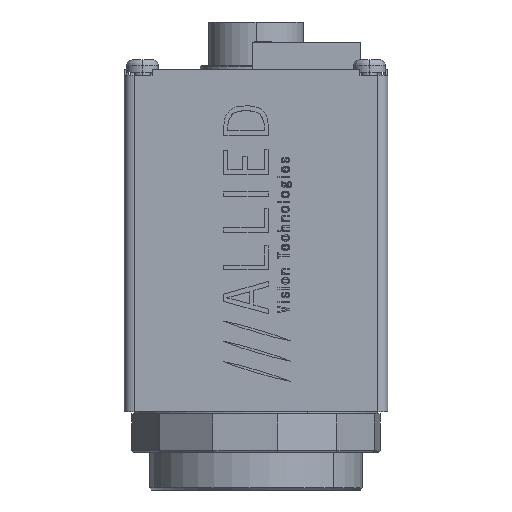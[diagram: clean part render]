
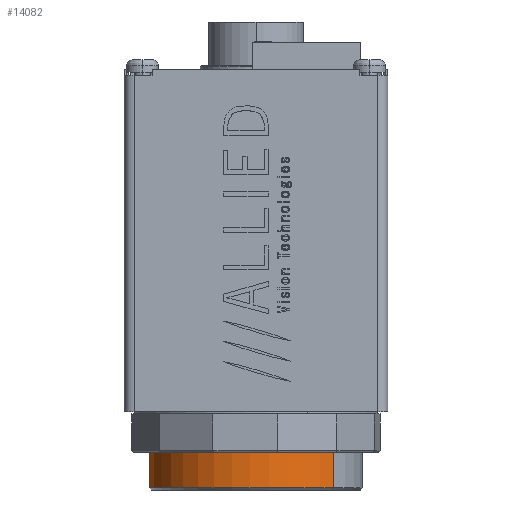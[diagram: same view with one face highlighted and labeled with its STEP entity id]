
A CAD part, left-side view. The second image highlights one B-rep face of the part: STEP entity #14082.
In plain terms, the highlighted cylindrical face has radius 13.335 mm (diameter 26.67 mm), a partial arc.
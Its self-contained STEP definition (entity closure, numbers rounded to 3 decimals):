
#2780 = ORIENTED_EDGE ( 'NONE', *, *, #92303, .F. ) ;
#14082 = ADVANCED_FACE ( 'NONE', ( #15612 ), #34441, .T. ) ;
#15612 = FACE_OUTER_BOUND ( 'NONE', #78470, .T. ) ;
#16991 = CARTESIAN_POINT ( 'NONE',  ( 0., 0., 13.386 ) ) ;
#19579 = CARTESIAN_POINT ( 'NONE',  ( 0., 0., 7.214 ) ) ;
#30424 = DIRECTION ( 'NONE',  ( 1., 0., 0. ) ) ;
#32280 = EDGE_CURVE ( 'NONE', #144891, #133744, #148888, .T. ) ;
#34441 = CYLINDRICAL_SURFACE ( 'NONE', #151671, 13.335 ) ;
#45432 = DIRECTION ( 'NONE',  ( 0., 0., 1. ) ) ;
#46321 = VECTOR ( 'NONE', #170094, 1000. ) ;
#46428 = DIRECTION ( 'NONE',  ( 0., 0., 1. ) ) ;
#49495 = LINE ( 'NONE', #83684, #152041 ) ;
#51397 = CIRCLE ( 'NONE', #167001, 13.335 ) ;
#55950 = AXIS2_PLACEMENT_3D ( 'NONE', #125602, #45432, #139055 ) ;
#56786 = CARTESIAN_POINT ( 'NONE',  ( 13.335, 0., 7.214 ) ) ;
#76534 = CARTESIAN_POINT ( 'NONE',  ( -13.335, 0., 7.214 ) ) ;
#77728 = VERTEX_POINT ( 'NONE', #124391 ) ;
#78470 = EDGE_LOOP ( 'NONE', ( #124386, #140783, #91178, #2780 ) ) ;
#83684 = CARTESIAN_POINT ( 'NONE',  ( 13.335, 0., 7.214 ) ) ;
#91178 = ORIENTED_EDGE ( 'NONE', *, *, #100019, .T. ) ;
#92303 = EDGE_CURVE ( 'NONE', #100018, #77728, #49495, .T. ) ;
#97166 = DIRECTION ( 'NONE',  ( 0., 0., 1. ) ) ;
#100018 = VERTEX_POINT ( 'NONE', #56786 ) ;
#100019 = EDGE_CURVE ( 'NONE', #133744, #77728, #51397, .T. ) ;
#100304 = DIRECTION ( 'NONE',  ( 1., 0., 0. ) ) ;
#110569 = DIRECTION ( 'NONE',  ( 0., 0., -1. ) ) ;
#110651 = CARTESIAN_POINT ( 'NONE',  ( -13.335, 0., 13.386 ) ) ;
#117074 = EDGE_CURVE ( 'NONE', #100018, #144891, #141030, .T. ) ;
#124386 = ORIENTED_EDGE ( 'NONE', *, *, #117074, .T. ) ;
#124391 = CARTESIAN_POINT ( 'NONE',  ( 13.335, 0., 13.386 ) ) ;
#125602 = CARTESIAN_POINT ( 'NONE',  ( 0., 0., 7.214 ) ) ;
#133744 = VERTEX_POINT ( 'NONE', #110651 ) ;
#139055 = DIRECTION ( 'NONE',  ( 1., 0., 0. ) ) ;
#140783 = ORIENTED_EDGE ( 'NONE', *, *, #32280, .T. ) ;
#141030 = CIRCLE ( 'NONE', #55950, 13.335 ) ;
#144891 = VERTEX_POINT ( 'NONE', #162286 ) ;
#148888 = LINE ( 'NONE', #76534, #46321 ) ;
#151671 = AXIS2_PLACEMENT_3D ( 'NONE', #19579, #46428, #100304 ) ;
#152041 = VECTOR ( 'NONE', #97166, 1000. ) ;
#162286 = CARTESIAN_POINT ( 'NONE',  ( -13.335, 0., 7.214 ) ) ;
#167001 = AXIS2_PLACEMENT_3D ( 'NONE', #16991, #110569, #30424 ) ;
#170094 = DIRECTION ( 'NONE',  ( 0., 0., 1. ) ) ;
